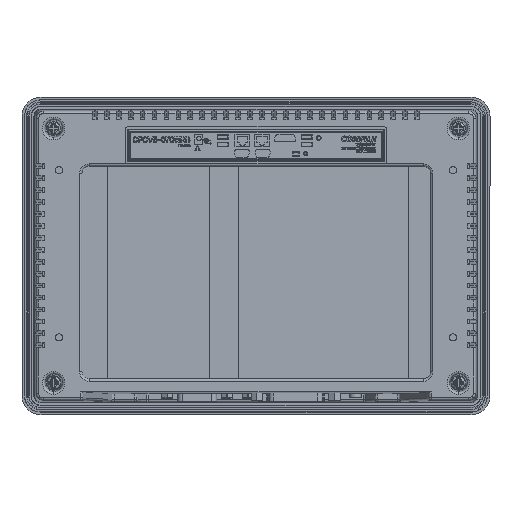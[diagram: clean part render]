
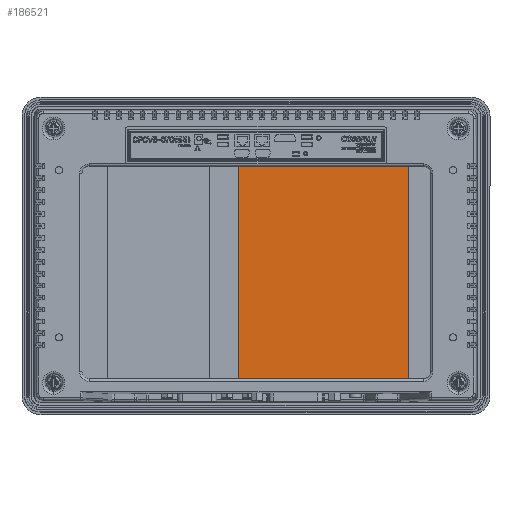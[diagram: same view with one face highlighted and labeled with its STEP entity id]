
A CAD part, top view. The second image highlights one B-rep face of the part: STEP entity #186521.
In plain terms, the highlighted planar face has unit normal (0, 0, 1).
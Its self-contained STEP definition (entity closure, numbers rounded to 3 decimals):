
#4033 = CARTESIAN_POINT ( 'NONE',  ( -100.894, 122.261, 53.8 ) ) ;
#9256 = ORIENTED_EDGE ( 'NONE', *, *, #206146, .F. ) ;
#13464 = CARTESIAN_POINT ( 'NONE',  ( -32.894, 20.061, 53.8 ) ) ;
#42831 = EDGE_CURVE ( 'NONE', #111421, #59922, #131697, .T. ) ;
#51437 = VERTEX_POINT ( 'NONE', #92497 ) ;
#54294 = CARTESIAN_POINT ( 'NONE',  ( -32.894, 122.261, 53.8 ) ) ;
#59922 = VERTEX_POINT ( 'NONE', #209037 ) ;
#63590 = VECTOR ( 'NONE', #84324, 1000. ) ;
#65252 = CARTESIAN_POINT ( 'NONE',  ( 38.306, 122.261, 53.8 ) ) ;
#73372 = DIRECTION ( 'NONE',  ( 0., 1., 0. ) ) ;
#81986 = CARTESIAN_POINT ( 'NONE',  ( 38.306, 122.261, 53.8 ) ) ;
#84324 = DIRECTION ( 'NONE',  ( 0., -1., 0. ) ) ;
#91477 = LINE ( 'NONE', #4033, #130283 ) ;
#92497 = CARTESIAN_POINT ( 'NONE',  ( 38.306, 20.061, 53.8 ) ) ;
#111421 = VERTEX_POINT ( 'NONE', #240081 ) ;
#124258 = VECTOR ( 'NONE', #165465, 1000. ) ;
#125716 = VECTOR ( 'NONE', #234358, 1000. ) ;
#130283 = VECTOR ( 'NONE', #156037, 1000. ) ;
#131697 = LINE ( 'NONE', #194508, #125716 ) ;
#131971 = ORIENTED_EDGE ( 'NONE', *, *, #236689, .T. ) ;
#145982 = ORIENTED_EDGE ( 'NONE', *, *, #175261, .T. ) ;
#156037 = DIRECTION ( 'NONE',  ( -1., 0., 0. ) ) ;
#162455 = FACE_OUTER_BOUND ( 'NONE', #176309, .T. ) ;
#164662 = LINE ( 'NONE', #65252, #63590 ) ;
#165465 = DIRECTION ( 'NONE',  ( 1., 0., 0. ) ) ;
#175261 = EDGE_CURVE ( 'NONE', #59922, #51437, #180657, .T. ) ;
#176309 = EDGE_LOOP ( 'NONE', ( #131971, #199562, #145982, #9256 ) ) ;
#180657 = LINE ( 'NONE', #13464, #124258 ) ;
#186521 = ADVANCED_FACE ( 'NONE', ( #162455 ), #224524, .F. ) ;
#187165 = DIRECTION ( 'NONE',  ( 0., 0., -1. ) ) ;
#194508 = CARTESIAN_POINT ( 'NONE',  ( -32.894, 122.261, 53.8 ) ) ;
#195716 = AXIS2_PLACEMENT_3D ( 'NONE', #54294, #187165, #73372 ) ;
#199562 = ORIENTED_EDGE ( 'NONE', *, *, #42831, .T. ) ;
#206146 = EDGE_CURVE ( 'NONE', #229844, #51437, #164662, .T. ) ;
#209037 = CARTESIAN_POINT ( 'NONE',  ( -32.894, 20.061, 53.8 ) ) ;
#224524 = PLANE ( 'NONE',  #195716 ) ;
#229844 = VERTEX_POINT ( 'NONE', #81986 ) ;
#234358 = DIRECTION ( 'NONE',  ( 0., -1., 0. ) ) ;
#236689 = EDGE_CURVE ( 'NONE', #229844, #111421, #91477, .T. ) ;
#240081 = CARTESIAN_POINT ( 'NONE',  ( -32.894, 122.261, 53.8 ) ) ;
